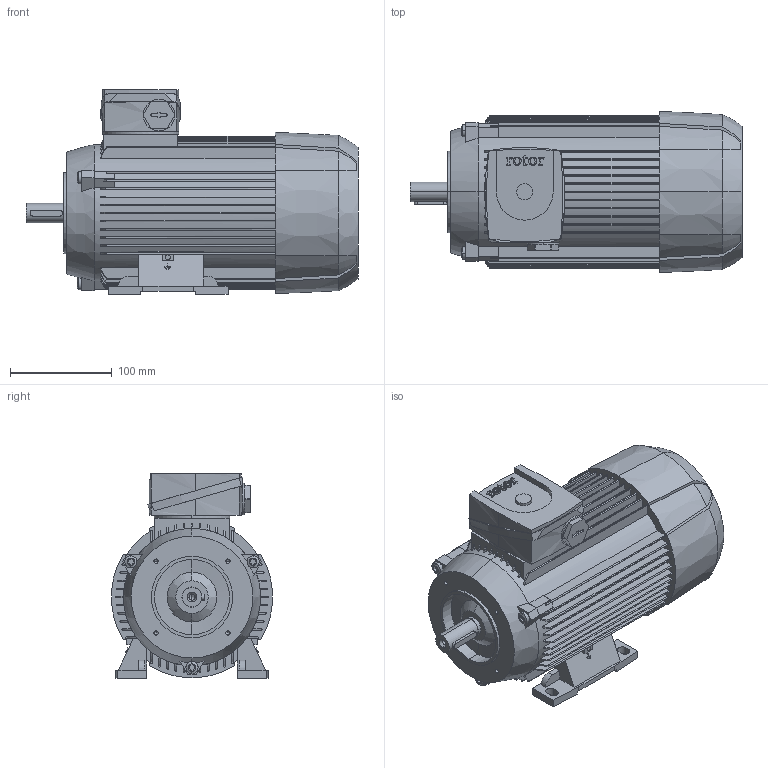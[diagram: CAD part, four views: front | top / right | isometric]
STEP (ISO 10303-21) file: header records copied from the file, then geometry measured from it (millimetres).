
FILE_DESCRIPTION (( 'STEP AP203' ), '1' );
FILE_NAME ('6RN80M04E26 IM2141-A.STEP', '2017-01-18T07:21:57', ( 'rotor' ), ( 'Hewlett-Packard Company' ), 'SwSTEP 2.0', 'SolidWorks 2015', '' );
FILE_SCHEMA (( 'CONFIG_CONTROL_DESIGN' ));
Length unit declared in the file: millimetre
Products named in the file (1): 6RN80M04E26 IM2141-A
Bounding box: 327 x 158.5 x 201.5 mm (x, y, z)
Volume: 4922876.7 mm3; surface area: 329747.1 mm2
Topology: 7 solids, 7 shells, 669 faces, 1860 edges, 1220 vertices
Faces by surface type: plane 399, cylinder 138, bspline 101, cone 31
Entity records: 24567 total; most frequent: CARTESIAN_POINT 7928, ORIENTED_EDGE 3700, DIRECTION 3123, EDGE_CURVE 1850, VERTEX_POINT 1220, LINE 1119, VECTOR 1119, AXIS2_PLACEMENT_3D 1002
